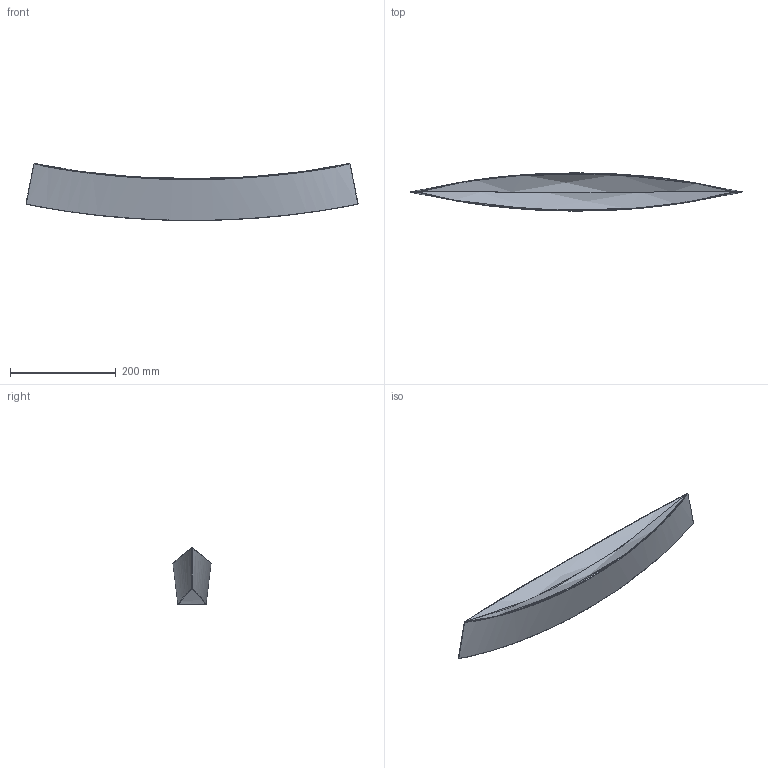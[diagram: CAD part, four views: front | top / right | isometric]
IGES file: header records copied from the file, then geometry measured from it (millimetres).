
Global section: file name: C:\Users\Bariani_F\Desktop\3D 2018\GONDOLA\Gondola.igs; native system: Rhinoceros ( Mar  9 2011 ); preprocessor: Trout Lake IGES 012 Mar  9 2011; date: 180705.082517; units: centimetre
Bounding box: 628.1 x 72.07 x 107.99 mm (x, y, z)
Surface area: 152578.2 mm2 (no closed solid volume)
Topology: 0 solids, 0 shells, 17 faces, 154 edges, 154 vertices
Faces by surface type: bspline 17
